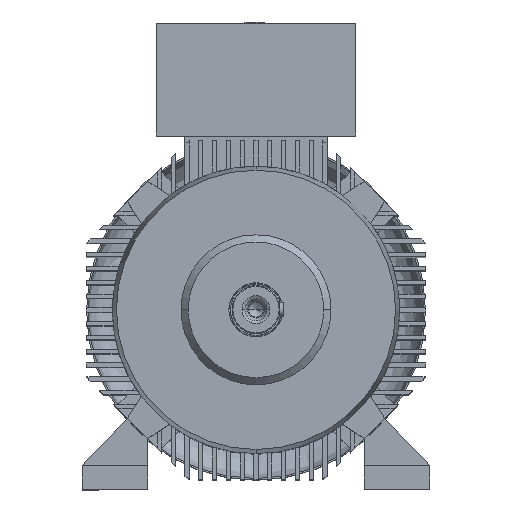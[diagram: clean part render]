
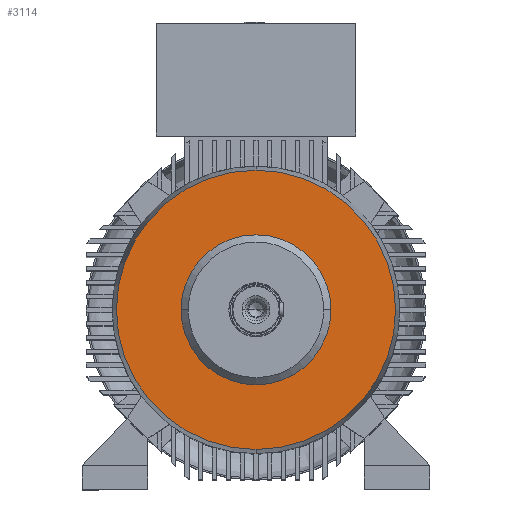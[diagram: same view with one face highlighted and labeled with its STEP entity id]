
A CAD part, top view. The second image highlights one B-rep face of the part: STEP entity #3114.
In plain terms, the highlighted planar face has unit normal (0, 0, 1).
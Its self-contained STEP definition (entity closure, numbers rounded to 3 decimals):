
#118 = CARTESIAN_POINT ( 'NONE',  ( 0., 175.013, 293.5 ) ) ;
#1473 = EDGE_CURVE ( 'NONE', #25113, #3420, #2668, .T. ) ;
#1726 = AXIS2_PLACEMENT_3D ( 'NONE', #118, #2367, #16578 ) ;
#2367 = DIRECTION ( 'NONE',  ( 0., 0., -1. ) ) ;
#2668 = CIRCLE ( 'NONE', #22213, 175.013 ) ;
#2883 = DIRECTION ( 'NONE',  ( 0., 0., -1. ) ) ;
#3114 = ADVANCED_FACE ( 'NONE', ( #3574, #4233 ), #4179, .F. ) ;
#3420 = VERTEX_POINT ( 'NONE', #21691 ) ;
#3574 = FACE_BOUND ( 'NONE', #13676, .T. ) ;
#4179 = PLANE ( 'NONE',  #1726 ) ;
#4233 = FACE_OUTER_BOUND ( 'NONE', #25762, .T. ) ;
#4570 = CIRCLE ( 'NONE', #22903, 94. ) ;
#5244 = VERTEX_POINT ( 'NONE', #23084 ) ;
#5543 = CARTESIAN_POINT ( 'NONE',  ( 0., 0., 293.5 ) ) ;
#7144 = DIRECTION ( 'NONE',  ( 0., 0., 1. ) ) ;
#7803 = DIRECTION ( 'NONE',  ( 1., 0., 0. ) ) ;
#9083 = ORIENTED_EDGE ( 'NONE', *, *, #1473, .T. ) ;
#9185 = EDGE_CURVE ( 'NONE', #15486, #5244, #11154, .T. ) ;
#9237 = CARTESIAN_POINT ( 'NONE',  ( 0., 0., 293.5 ) ) ;
#11154 = CIRCLE ( 'NONE', #11788, 94. ) ;
#11788 = AXIS2_PLACEMENT_3D ( 'NONE', #5543, #19791, #7803 ) ;
#13676 = EDGE_LOOP ( 'NONE', ( #15548, #18190 ) ) ;
#14575 = CARTESIAN_POINT ( 'NONE',  ( -94., 0., 293.5 ) ) ;
#15486 = VERTEX_POINT ( 'NONE', #14575 ) ;
#15548 = ORIENTED_EDGE ( 'NONE', *, *, #22840, .T. ) ;
#15551 = CARTESIAN_POINT ( 'NONE',  ( 0., 175.013, 293.5 ) ) ;
#16578 = DIRECTION ( 'NONE',  ( 1., 0., 0. ) ) ;
#16917 = DIRECTION ( 'NONE',  ( 1., 0., 0. ) ) ;
#17939 = CIRCLE ( 'NONE', #24100, 175.013 ) ;
#18190 = ORIENTED_EDGE ( 'NONE', *, *, #9185, .T. ) ;
#19791 = DIRECTION ( 'NONE',  ( 0., 0., -1. ) ) ;
#21168 = CARTESIAN_POINT ( 'NONE',  ( 0., 0., 293.5 ) ) ;
#21172 = CARTESIAN_POINT ( 'NONE',  ( 0., 0., 293.5 ) ) ;
#21691 = CARTESIAN_POINT ( 'NONE',  ( 0., -175.013, 293.5 ) ) ;
#22213 = AXIS2_PLACEMENT_3D ( 'NONE', #9237, #25575, #25318 ) ;
#22840 = EDGE_CURVE ( 'NONE', #5244, #15486, #4570, .T. ) ;
#22903 = AXIS2_PLACEMENT_3D ( 'NONE', #21172, #2883, #16917 ) ;
#23084 = CARTESIAN_POINT ( 'NONE',  ( 94., 0., 293.5 ) ) ;
#23371 = DIRECTION ( 'NONE',  ( 0., -1., 0. ) ) ;
#23880 = EDGE_CURVE ( 'NONE', #3420, #25113, #17939, .T. ) ;
#24100 = AXIS2_PLACEMENT_3D ( 'NONE', #21168, #7144, #23371 ) ;
#25113 = VERTEX_POINT ( 'NONE', #15551 ) ;
#25318 = DIRECTION ( 'NONE',  ( 0., -1., 0. ) ) ;
#25575 = DIRECTION ( 'NONE',  ( 0., 0., 1. ) ) ;
#25740 = ORIENTED_EDGE ( 'NONE', *, *, #23880, .T. ) ;
#25762 = EDGE_LOOP ( 'NONE', ( #25740, #9083 ) ) ;
